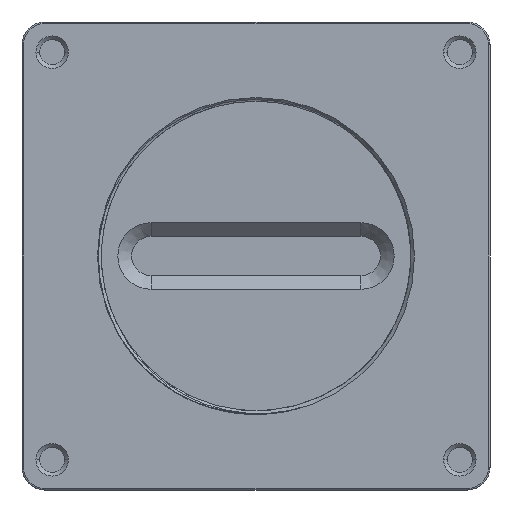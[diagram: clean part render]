
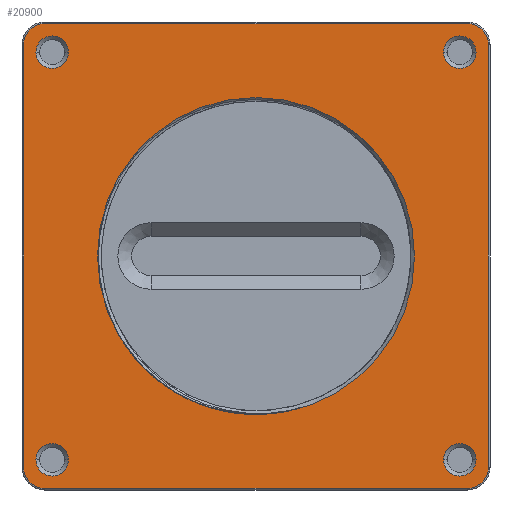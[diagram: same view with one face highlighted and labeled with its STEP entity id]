
A CAD part, front view. The second image highlights one B-rep face of the part: STEP entity #20900.
In plain terms, the highlighted planar face has unit normal (0, -1, 0).
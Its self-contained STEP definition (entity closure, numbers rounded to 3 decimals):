
#542=CARTESIAN_POINT('',(-28.,-33.01,-28.));
#543=DIRECTION('',(0.,1.,0.));
#544=DIRECTION('',(0.,0.,-1.));
#545=AXIS2_PLACEMENT_3D('',#542,#543,#544);
#550=DIRECTION('',(0.,0.,1.));
#551=VECTOR('',#550,56.);
#552=CARTESIAN_POINT('',(-30.8,-33.01,-28.));
#553=LINE('',#552,#551);
#557=CARTESIAN_POINT('',(-28.,-33.01,28.));
#558=DIRECTION('',(0.,1.,0.));
#559=DIRECTION('',(-1.,0.,0.));
#560=AXIS2_PLACEMENT_3D('',#557,#558,#559);
#565=DIRECTION('',(1.,0.,0.));
#566=VECTOR('',#565,56.);
#567=CARTESIAN_POINT('',(-28.,-33.01,30.8));
#568=LINE('',#567,#566);
#572=CARTESIAN_POINT('',(28.,-33.01,28.));
#573=DIRECTION('',(0.,1.,0.));
#574=DIRECTION('',(0.,0.,1.));
#575=AXIS2_PLACEMENT_3D('',#572,#573,#574);
#580=DIRECTION('',(0.,0.,-1.));
#581=VECTOR('',#580,56.);
#582=CARTESIAN_POINT('',(30.8,-33.01,28.));
#583=LINE('',#582,#581);
#587=CARTESIAN_POINT('',(28.,-33.01,-28.));
#588=DIRECTION('',(0.,1.,0.));
#589=DIRECTION('',(1.,0.,0.));
#590=AXIS2_PLACEMENT_3D('',#587,#588,#589);
#595=DIRECTION('',(-1.,0.,0.));
#596=VECTOR('',#595,56.);
#597=CARTESIAN_POINT('',(28.,-33.01,-30.8));
#598=LINE('',#597,#596);
#602=CARTESIAN_POINT('',(-27.,-33.01,-27.));
#603=DIRECTION('',(0.,1.,0.));
#604=DIRECTION('',(1.,0.,0.));
#605=AXIS2_PLACEMENT_3D('',#602,#603,#604);
#610=CARTESIAN_POINT('',(-27.,-33.01,-27.));
#611=DIRECTION('',(0.,1.,0.));
#612=DIRECTION('',(-1.,0.,0.));
#613=AXIS2_PLACEMENT_3D('',#610,#611,#612);
#618=CARTESIAN_POINT('',(-27.,-33.01,27.));
#619=DIRECTION('',(0.,1.,0.));
#620=DIRECTION('',(-1.,0.,0.));
#621=AXIS2_PLACEMENT_3D('',#618,#619,#620);
#626=CARTESIAN_POINT('',(-27.,-33.01,27.));
#627=DIRECTION('',(0.,1.,0.));
#628=DIRECTION('',(1.,0.,0.));
#629=AXIS2_PLACEMENT_3D('',#626,#627,#628);
#634=CARTESIAN_POINT('',(27.,-33.01,27.));
#635=DIRECTION('',(0.,1.,0.));
#636=DIRECTION('',(-1.,0.,0.));
#637=AXIS2_PLACEMENT_3D('',#634,#635,#636);
#642=CARTESIAN_POINT('',(27.,-33.01,27.));
#643=DIRECTION('',(0.,1.,0.));
#644=DIRECTION('',(1.,0.,0.));
#645=AXIS2_PLACEMENT_3D('',#642,#643,#644);
#650=CARTESIAN_POINT('',(27.,-33.01,-27.));
#651=DIRECTION('',(0.,1.,0.));
#652=DIRECTION('',(-1.,0.,0.));
#653=AXIS2_PLACEMENT_3D('',#650,#651,#652);
#658=CARTESIAN_POINT('',(27.,-33.01,-27.));
#659=DIRECTION('',(0.,1.,0.));
#660=DIRECTION('',(1.,0.,0.));
#661=AXIS2_PLACEMENT_3D('',#658,#659,#660);
#666=CARTESIAN_POINT('',(0.,-33.01,0.));
#667=DIRECTION('',(0.,1.,0.));
#668=DIRECTION('',(0.,0.,-1.));
#669=AXIS2_PLACEMENT_3D('',#666,#667,#668);
#674=CARTESIAN_POINT('',(0.,-33.01,0.));
#675=DIRECTION('',(0.,1.,0.));
#676=DIRECTION('',(0.,0.,1.));
#677=AXIS2_PLACEMENT_3D('',#674,#675,#676);
#2959=CARTESIAN_POINT('',(0.,-33.01,
-21.));
#17977=CARTESIAN_POINT('',(-24.85,-33.01,-27.));
#17978=CARTESIAN_POINT('',(-29.15,-33.01,-27.));
#17979=VERTEX_POINT('',#17977);
#17980=VERTEX_POINT('',#17978);
#17981=CARTESIAN_POINT('',(-29.15,-33.01,27.));
#17982=CARTESIAN_POINT('',(-24.85,-33.01,27.));
#17983=VERTEX_POINT('',#17981);
#17984=VERTEX_POINT('',#17982);
#17985=CARTESIAN_POINT('',(24.85,-33.01,27.));
#17986=CARTESIAN_POINT('',(29.15,-33.01,27.));
#17987=VERTEX_POINT('',#17985);
#17988=VERTEX_POINT('',#17986);
#17989=CARTESIAN_POINT('',(24.85,-33.01,-27.));
#17990=CARTESIAN_POINT('',(29.15,-33.01,-27.));
#17991=VERTEX_POINT('',#17989);
#17992=VERTEX_POINT('',#17990);
#17997=CARTESIAN_POINT('',(-28.,-33.01,-30.8));
#17998=CARTESIAN_POINT('',(-30.8,-33.01,-28.));
#17999=VERTEX_POINT('',#17997);
#18000=VERTEX_POINT('',#17998);
#18003=CARTESIAN_POINT('',(-30.8,-33.01,28.));
#18004=VERTEX_POINT('',#18003);
#18007=CARTESIAN_POINT('',(-28.,-33.01,30.8));
#18008=VERTEX_POINT('',#18007);
#18011=CARTESIAN_POINT('',(28.,-33.01,30.8));
#18012=VERTEX_POINT('',#18011);
#18015=CARTESIAN_POINT('',(30.8,-33.01,28.));
#18016=VERTEX_POINT('',#18015);
#18019=CARTESIAN_POINT('',(30.8,-33.01,-28.));
#18020=VERTEX_POINT('',#18019);
#18023=CARTESIAN_POINT('',(28.,-33.01,-30.8));
#18024=VERTEX_POINT('',#18023);
#18027=VERTEX_POINT('',#2959);
#18028=CARTESIAN_POINT('',(0.,-33.01,21.));
#18029=VERTEX_POINT('',#18028);
#20851=CARTESIAN_POINT('',(31.,-33.01,31.));
#20852=DIRECTION('',(0.,-1.,0.));
#20853=DIRECTION('',(0.,0.,-1.));
#20854=AXIS2_PLACEMENT_3D('',#20851,#20852,#20853);
#20855=PLANE('',#20854);
#20857=ORIENTED_EDGE('',*,*,#20856,.T.);
#20859=ORIENTED_EDGE('',*,*,#20858,.T.);
#20861=ORIENTED_EDGE('',*,*,#20860,.T.);
#20862=ORIENTED_EDGE('',*,*,#20837,.T.);
#20863=ORIENTED_EDGE('',*,*,#20547,.T.);
#20864=ORIENTED_EDGE('',*,*,#20569,.T.);
#20865=ORIENTED_EDGE('',*,*,#20591,.T.);
#20867=ORIENTED_EDGE('',*,*,#20866,.T.);
#20868=EDGE_LOOP('',(#20857,#20859,#20861,#20862,#20863,#20864,#20865,#20867));
#20869=FACE_OUTER_BOUND('',#20868,.F.);
#20871=ORIENTED_EDGE('',*,*,#20870,.F.);
#20873=ORIENTED_EDGE('',*,*,#20872,.F.);
#20874=EDGE_LOOP('',(#20871,#20873));
#20875=FACE_BOUND('',#20874,.F.);
#20877=ORIENTED_EDGE('',*,*,#20876,.F.);
#20879=ORIENTED_EDGE('',*,*,#20878,.F.);
#20880=EDGE_LOOP('',(#20877,#20879));
#20881=FACE_BOUND('',#20880,.F.);
#20883=ORIENTED_EDGE('',*,*,#20882,.F.);
#20885=ORIENTED_EDGE('',*,*,#20884,.F.);
#20886=EDGE_LOOP('',(#20883,#20885));
#20887=FACE_BOUND('',#20886,.F.);
#20889=ORIENTED_EDGE('',*,*,#20888,.F.);
#20891=ORIENTED_EDGE('',*,*,#20890,.F.);
#20892=EDGE_LOOP('',(#20889,#20891));
#20893=FACE_BOUND('',#20892,.F.);
#20895=ORIENTED_EDGE('',*,*,#20894,.F.);
#20897=ORIENTED_EDGE('',*,*,#20896,.F.);
#20898=EDGE_LOOP('',(#20895,#20897));
#20899=FACE_BOUND('',#20898,.F.);
#20900=ADVANCED_FACE('',(#20869,#20875,#20881,#20887,#20893,#20899),#20855,.T.);
#546=CIRCLE('',#545,2.8);
#561=CIRCLE('',#560,2.8);
#576=CIRCLE('',#575,2.8);
#591=CIRCLE('',#590,2.8);
#606=CIRCLE('',#605,2.15);
#614=CIRCLE('',#613,2.15);
#622=CIRCLE('',#621,2.15);
#630=CIRCLE('',#629,2.15);
#638=CIRCLE('',#637,2.15);
#646=CIRCLE('',#645,2.15);
#654=CIRCLE('',#653,2.15);
#662=CIRCLE('',#661,2.15);
#670=CIRCLE('',#669,21.);
#678=CIRCLE('',#677,21.);
#20547=EDGE_CURVE('',#18012,#18016,#576,.T.);
#20569=EDGE_CURVE('',#18016,#18020,#583,.T.);
#20591=EDGE_CURVE('',#18020,#18024,#591,.T.);
#20837=EDGE_CURVE('',#18008,#18012,#568,.T.);
#20856=EDGE_CURVE('',#17999,#18000,#546,.T.);
#20858=EDGE_CURVE('',#18000,#18004,#553,.T.);
#20860=EDGE_CURVE('',#18004,#18008,#561,.T.);
#20866=EDGE_CURVE('',#18024,#17999,#598,.T.);
#20870=EDGE_CURVE('',#17979,#17980,#606,.T.);
#20872=EDGE_CURVE('',#17980,#17979,#614,.T.);
#20876=EDGE_CURVE('',#17983,#17984,#622,.T.);
#20878=EDGE_CURVE('',#17984,#17983,#630,.T.);
#20882=EDGE_CURVE('',#17987,#17988,#638,.T.);
#20884=EDGE_CURVE('',#17988,#17987,#646,.T.);
#20888=EDGE_CURVE('',#17991,#17992,#654,.T.);
#20890=EDGE_CURVE('',#17992,#17991,#662,.T.);
#20894=EDGE_CURVE('',#18027,#18029,#670,.T.);
#20896=EDGE_CURVE('',#18029,#18027,#678,.T.);
